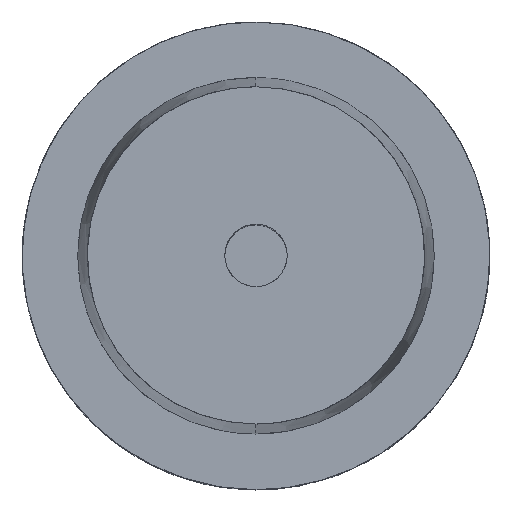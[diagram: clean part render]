
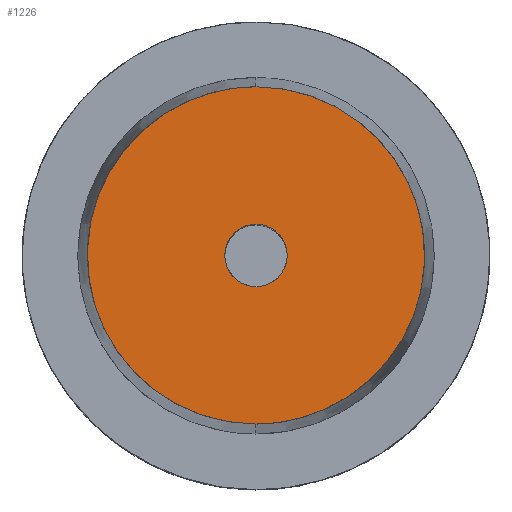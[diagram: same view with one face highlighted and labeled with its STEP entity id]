
A CAD part, top view. The second image highlights one B-rep face of the part: STEP entity #1226.
In plain terms, the highlighted planar face has unit normal (0, 0, -1).
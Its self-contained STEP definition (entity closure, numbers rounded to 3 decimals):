
#1226 = ADVANCED_FACE('',(#1227,#1274),#1243,.T.);
#1227 = FACE_BOUND('',#1228,.T.);
#1228 = EDGE_LOOP('',(#1229,#1256));
#1229 = ORIENTED_EDGE('',*,*,#1230,.T.);
#1230 = EDGE_CURVE('',#1231,#1233,#1235,.T.);
#1231 = VERTEX_POINT('',#1232);
#1232 = CARTESIAN_POINT('',(0.,22.717,32.));
#1233 = VERTEX_POINT('',#1234);
#1234 = CARTESIAN_POINT('',(0.,-22.717,32.));
#1235 = SURFACE_CURVE('',#1236,(#1242),.PCURVE_S1.);
#1236 = ( BOUNDED_CURVE() B_SPLINE_CURVE(2,(#1237,#1238,#1239,#1240,
#1241),.UNSPECIFIED.,.F.,.F.) B_SPLINE_CURVE_WITH_KNOTS((3,2,3),(0.,0.5,
1.),.PIECEWISE_BEZIER_KNOTS.) CURVE() GEOMETRIC_REPRESENTATION_ITEM() 
RATIONAL_B_SPLINE_CURVE((1.,0.707,1.,0.707,1.)) 
REPRESENTATION_ITEM('') );
#1237 = CARTESIAN_POINT('',(0.,22.717,32.));
#1238 = CARTESIAN_POINT('',(22.717,22.717,32.));
#1239 = CARTESIAN_POINT('',(22.717,0.,32.));
#1240 = CARTESIAN_POINT('',(22.717,-22.717,32.));
#1241 = CARTESIAN_POINT('',(0.,-22.717,32.));
#1242 = PCURVE('',#1243,#1248);
#1243 = PLANE('',#1244);
#1244 = AXIS2_PLACEMENT_3D('',#1245,#1246,#1247);
#1245 = CARTESIAN_POINT('',(0.,0.,32.)
  );
#1246 = DIRECTION('',(0.,0.,-1.));
#1247 = DIRECTION('',(0.,1.,0.));
#1248 = DEFINITIONAL_REPRESENTATION('',(#1249),#1255);
#1249 = ( BOUNDED_CURVE() B_SPLINE_CURVE(2,(#1250,#1251,#1252,#1253,
#1254),.UNSPECIFIED.,.F.,.F.) B_SPLINE_CURVE_WITH_KNOTS((3,2,3),(0.,0.5,
1.),.PIECEWISE_BEZIER_KNOTS.) CURVE() GEOMETRIC_REPRESENTATION_ITEM() 
RATIONAL_B_SPLINE_CURVE((1.,0.707,1.,0.707,1.)) 
REPRESENTATION_ITEM('') );
#1250 = CARTESIAN_POINT('',(22.717,0.));
#1251 = CARTESIAN_POINT('',(22.717,22.717));
#1252 = CARTESIAN_POINT('',(0.,22.717));
#1253 = CARTESIAN_POINT('',(-22.717,22.717));
#1254 = CARTESIAN_POINT('',(-22.717,0.));
#1255 = ( GEOMETRIC_REPRESENTATION_CONTEXT(2) 
PARAMETRIC_REPRESENTATION_CONTEXT() REPRESENTATION_CONTEXT('2D SPACE',''
  ) );
#1256 = ORIENTED_EDGE('',*,*,#1257,.T.);
#1257 = EDGE_CURVE('',#1233,#1231,#1258,.T.);
#1258 = SURFACE_CURVE('',#1259,(#1265),.PCURVE_S1.);
#1259 = ( BOUNDED_CURVE() B_SPLINE_CURVE(2,(#1260,#1261,#1262,#1263,
#1264),.UNSPECIFIED.,.F.,.F.) B_SPLINE_CURVE_WITH_KNOTS((3,2,3),(0.,0.5,
1.),.PIECEWISE_BEZIER_KNOTS.) CURVE() GEOMETRIC_REPRESENTATION_ITEM() 
RATIONAL_B_SPLINE_CURVE((1.,0.707,1.,0.707,1.)) 
REPRESENTATION_ITEM('') );
#1260 = CARTESIAN_POINT('',(0.,-22.717,32.));
#1261 = CARTESIAN_POINT('',(-22.717,-22.717,32.));
#1262 = CARTESIAN_POINT('',(-22.717,0.,32.));
#1263 = CARTESIAN_POINT('',(-22.717,22.717,32.));
#1264 = CARTESIAN_POINT('',(0.,22.717,32.));
#1265 = PCURVE('',#1243,#1266);
#1266 = DEFINITIONAL_REPRESENTATION('',(#1267),#1273);
#1267 = ( BOUNDED_CURVE() B_SPLINE_CURVE(2,(#1268,#1269,#1270,#1271,
#1272),.UNSPECIFIED.,.F.,.F.) B_SPLINE_CURVE_WITH_KNOTS((3,2,3),(0.,0.5,
1.),.PIECEWISE_BEZIER_KNOTS.) CURVE() GEOMETRIC_REPRESENTATION_ITEM() 
RATIONAL_B_SPLINE_CURVE((1.,0.707,1.,0.707,1.)) 
REPRESENTATION_ITEM('') );
#1268 = CARTESIAN_POINT('',(-22.717,0.));
#1269 = CARTESIAN_POINT('',(-22.717,-22.717));
#1270 = CARTESIAN_POINT('',(0.,-22.717));
#1271 = CARTESIAN_POINT('',(22.717,-22.717));
#1272 = CARTESIAN_POINT('',(22.717,0.));
#1273 = ( GEOMETRIC_REPRESENTATION_CONTEXT(2) 
PARAMETRIC_REPRESENTATION_CONTEXT() REPRESENTATION_CONTEXT('2D SPACE',''
  ) );
#1274 = FACE_BOUND('',#1275,.T.);
#1275 = EDGE_LOOP('',(#1276,#1298));
#1276 = ORIENTED_EDGE('',*,*,#1277,.T.);
#1277 = EDGE_CURVE('',#1278,#1280,#1282,.T.);
#1278 = VERTEX_POINT('',#1279);
#1279 = CARTESIAN_POINT('',(0.,4.2,32.));
#1280 = VERTEX_POINT('',#1281);
#1281 = CARTESIAN_POINT('',(0.,-4.2,32.));
#1282 = SURFACE_CURVE('',#1283,(#1289),.PCURVE_S1.);
#1283 = ( BOUNDED_CURVE() B_SPLINE_CURVE(2,(#1284,#1285,#1286,#1287,
#1288),.UNSPECIFIED.,.F.,.F.) B_SPLINE_CURVE_WITH_KNOTS((3,2,3),(0.,0.5,
1.),.PIECEWISE_BEZIER_KNOTS.) CURVE() GEOMETRIC_REPRESENTATION_ITEM() 
RATIONAL_B_SPLINE_CURVE((1.,0.707,1.,0.707,1.)) 
REPRESENTATION_ITEM('') );
#1284 = CARTESIAN_POINT('',(0.,4.2,32.));
#1285 = CARTESIAN_POINT('',(-4.2,4.2,32.));
#1286 = CARTESIAN_POINT('',(-4.2,0.,32.));
#1287 = CARTESIAN_POINT('',(-4.2,-4.2,32.));
#1288 = CARTESIAN_POINT('',(0.,-4.2,32.));
#1289 = PCURVE('',#1243,#1290);
#1290 = DEFINITIONAL_REPRESENTATION('',(#1291),#1297);
#1291 = ( BOUNDED_CURVE() B_SPLINE_CURVE(2,(#1292,#1293,#1294,#1295,
#1296),.UNSPECIFIED.,.F.,.F.) B_SPLINE_CURVE_WITH_KNOTS((3,2,3),(0.,0.5,
1.),.PIECEWISE_BEZIER_KNOTS.) CURVE() GEOMETRIC_REPRESENTATION_ITEM() 
RATIONAL_B_SPLINE_CURVE((1.,0.707,1.,0.707,1.)) 
REPRESENTATION_ITEM('') );
#1292 = CARTESIAN_POINT('',(4.2,0.));
#1293 = CARTESIAN_POINT('',(4.2,-4.2));
#1294 = CARTESIAN_POINT('',(0.,-4.2));
#1295 = CARTESIAN_POINT('',(-4.2,-4.2));
#1296 = CARTESIAN_POINT('',(-4.2,0.));
#1297 = ( GEOMETRIC_REPRESENTATION_CONTEXT(2) 
PARAMETRIC_REPRESENTATION_CONTEXT() REPRESENTATION_CONTEXT('2D SPACE',''
  ) );
#1298 = ORIENTED_EDGE('',*,*,#1299,.T.);
#1299 = EDGE_CURVE('',#1280,#1278,#1300,.T.);
#1300 = SURFACE_CURVE('',#1301,(#1307),.PCURVE_S1.);
#1301 = ( BOUNDED_CURVE() B_SPLINE_CURVE(2,(#1302,#1303,#1304,#1305,
#1306),.UNSPECIFIED.,.F.,.F.) B_SPLINE_CURVE_WITH_KNOTS((3,2,3),(0.,0.5,
1.),.PIECEWISE_BEZIER_KNOTS.) CURVE() GEOMETRIC_REPRESENTATION_ITEM() 
RATIONAL_B_SPLINE_CURVE((1.,0.707,1.,0.707,1.)) 
REPRESENTATION_ITEM('') );
#1302 = CARTESIAN_POINT('',(0.,-4.2,32.));
#1303 = CARTESIAN_POINT('',(4.2,-4.2,32.));
#1304 = CARTESIAN_POINT('',(4.2,0.,32.));
#1305 = CARTESIAN_POINT('',(4.2,4.2,32.));
#1306 = CARTESIAN_POINT('',(0.,4.2,32.));
#1307 = PCURVE('',#1243,#1308);
#1308 = DEFINITIONAL_REPRESENTATION('',(#1309),#1315);
#1309 = ( BOUNDED_CURVE() B_SPLINE_CURVE(2,(#1310,#1311,#1312,#1313,
#1314),.UNSPECIFIED.,.F.,.F.) B_SPLINE_CURVE_WITH_KNOTS((3,2,3),(0.,0.5,
1.),.PIECEWISE_BEZIER_KNOTS.) CURVE() GEOMETRIC_REPRESENTATION_ITEM() 
RATIONAL_B_SPLINE_CURVE((1.,0.707,1.,0.707,1.)) 
REPRESENTATION_ITEM('') );
#1310 = CARTESIAN_POINT('',(-4.2,0.));
#1311 = CARTESIAN_POINT('',(-4.2,4.2));
#1312 = CARTESIAN_POINT('',(0.,4.2));
#1313 = CARTESIAN_POINT('',(4.2,4.2));
#1314 = CARTESIAN_POINT('',(4.2,0.));
#1315 = ( GEOMETRIC_REPRESENTATION_CONTEXT(2) 
PARAMETRIC_REPRESENTATION_CONTEXT() REPRESENTATION_CONTEXT('2D SPACE',''
  ) );
